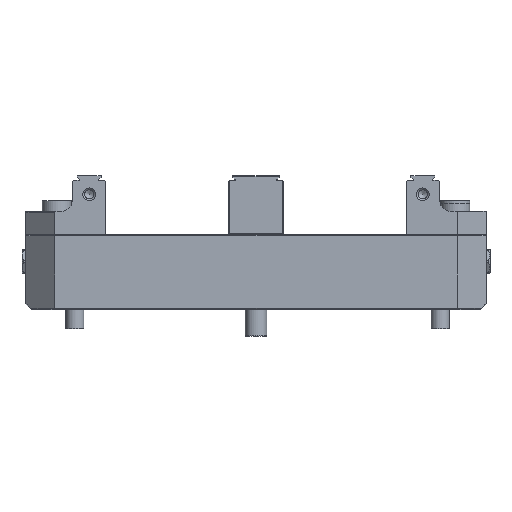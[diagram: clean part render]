
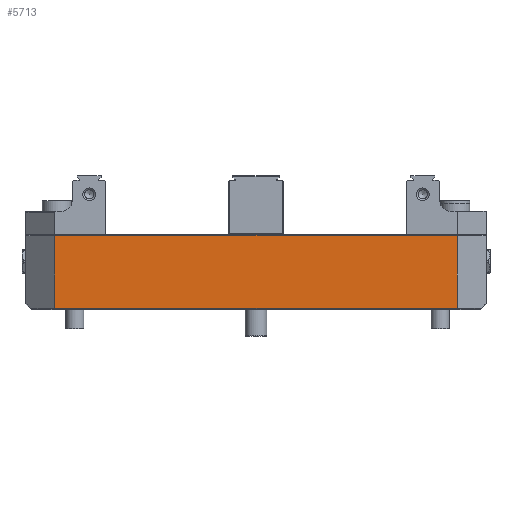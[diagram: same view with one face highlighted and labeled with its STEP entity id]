
A CAD part, top view. The second image highlights one B-rep face of the part: STEP entity #5713.
In plain terms, the highlighted planar face has unit normal (0, 0, 1).
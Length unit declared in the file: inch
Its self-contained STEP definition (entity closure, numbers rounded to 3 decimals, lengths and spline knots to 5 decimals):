
#298 = DIRECTION ( 'NONE',  ( 0., 0., -1. ) ) ;
#430 = ORIENTED_EDGE ( 'NONE', *, *, #14071, .T. ) ;
#658 = LINE ( 'NONE', #893, #12617 ) ;
#893 = CARTESIAN_POINT ( 'NONE',  ( 4.375, 1.675, 2.475 ) ) ;
#1229 = LINE ( 'NONE', #6070, #8959 ) ;
#1824 = EDGE_CURVE ( 'NONE', #18481, #2062, #6830, .T. ) ;
#2062 = VERTEX_POINT ( 'NONE', #8000 ) ;
#2165 = ORIENTED_EDGE ( 'NONE', *, *, #17353, .T. ) ;
#3028 = CARTESIAN_POINT ( 'NONE',  ( -4.375, 0.045, 2.475 ) ) ;
#3859 = FACE_OUTER_BOUND ( 'NONE', #8680, .T. ) ;
#4457 = DIRECTION ( 'NONE',  ( 0., -1., 0. ) ) ;
#5115 = CARTESIAN_POINT ( 'NONE',  ( 4.375, 0.045, 2.475 ) ) ;
#5242 = DIRECTION ( 'NONE',  ( -1., 0., 0. ) ) ;
#5303 = CARTESIAN_POINT ( 'NONE',  ( 4.375, 1.63, 2.475 ) ) ;
#5713 = ADVANCED_FACE ( 'NONE', ( #3859 ), #6072, .F. ) ;
#6070 = CARTESIAN_POINT ( 'NONE',  ( -4.375, 1.675, 2.475 ) ) ;
#6072 = PLANE ( 'NONE',  #18636 ) ;
#6559 = CARTESIAN_POINT ( 'NONE',  ( 4.375, 0.045, 2.475 ) ) ;
#6830 = LINE ( 'NONE', #22013, #21504 ) ;
#7102 = ORIENTED_EDGE ( 'NONE', *, *, #1824, .T. ) ;
#7915 = CARTESIAN_POINT ( 'NONE',  ( -5., 1.675, 2.475 ) ) ;
#8000 = CARTESIAN_POINT ( 'NONE',  ( -4.375, 1.63, 2.475 ) ) ;
#8680 = EDGE_LOOP ( 'NONE', ( #18235, #7102, #2165, #430 ) ) ;
#8959 = VECTOR ( 'NONE', #4457, 39.37008 ) ;
#10754 = LINE ( 'NONE', #5115, #12055 ) ;
#12055 = VECTOR ( 'NONE', #12206, 39.37008 ) ;
#12206 = DIRECTION ( 'NONE',  ( 1., 0., 0. ) ) ;
#12617 = VECTOR ( 'NONE', #16079, 39.37008 ) ;
#13326 = VERTEX_POINT ( 'NONE', #6559 ) ;
#14071 = EDGE_CURVE ( 'NONE', #20907, #13326, #10754, .T. ) ;
#15336 = DIRECTION ( 'NONE',  ( -1., 0., 0. ) ) ;
#16079 = DIRECTION ( 'NONE',  ( 0., 1., 0. ) ) ;
#17353 = EDGE_CURVE ( 'NONE', #2062, #20907, #1229, .T. ) ;
#18235 = ORIENTED_EDGE ( 'NONE', *, *, #24202, .T. ) ;
#18481 = VERTEX_POINT ( 'NONE', #5303 ) ;
#18636 = AXIS2_PLACEMENT_3D ( 'NONE', #7915, #298, #15336 ) ;
#20907 = VERTEX_POINT ( 'NONE', #3028 ) ;
#21504 = VECTOR ( 'NONE', #5242, 39.37008 ) ;
#22013 = CARTESIAN_POINT ( 'NONE',  ( -5., 1.63, 2.475 ) ) ;
#24202 = EDGE_CURVE ( 'NONE', #13326, #18481, #658, .T. ) ;
